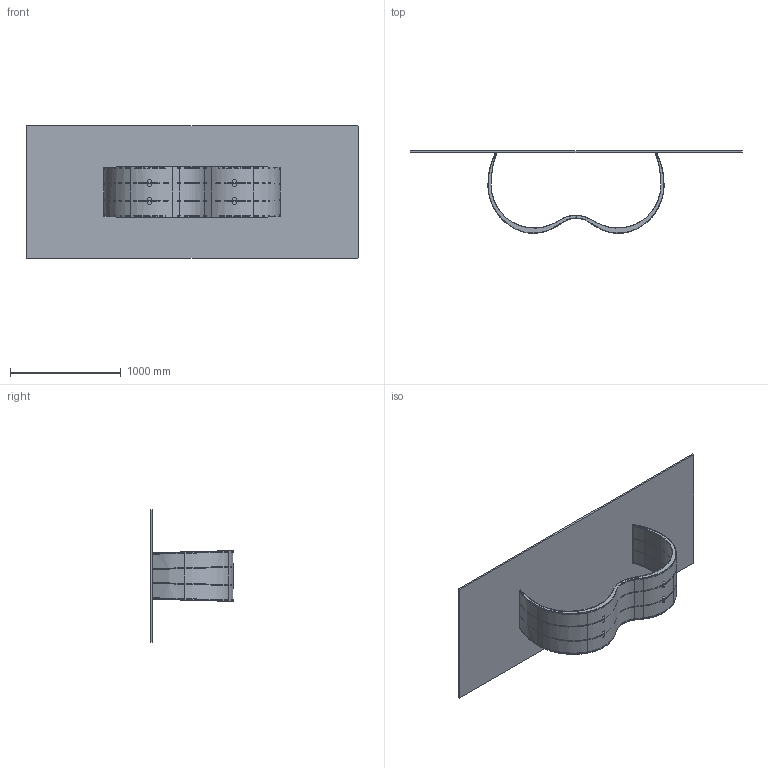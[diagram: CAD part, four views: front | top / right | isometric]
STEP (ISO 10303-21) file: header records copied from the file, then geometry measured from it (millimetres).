
FILE_DESCRIPTION (( 'STEP AP203' ), '1' );
FILE_NAME ('AI24G_Alisei_300x120_Glass Rectangular.STEP', '2024-07-31T12:52:25', ( '' ), ( '' ), 'SwSTEP 2.0', 'SolidWorks 2022', '' );
FILE_SCHEMA (( 'CONFIG_CONTROL_DESIGN' ));
Length unit declared in the file: millimetre
Products named in the file (13): SpecchiaturaSpecchiaturaBASE METALLO CURVATO_MEZZA COSTOLA INTERNA; ALI000001_01-00-LAMIERA CALANDRATA ESTERNA; C2XCRXX-00-Piani Rettangolari Cristallo_24 3000x1200; ALI000001-00-ALISEI BASE METALLO L300 GREZZO; SpecchiaturaSpecchiaturaBASE METALLO CURVATO_MEZZA COSTOLA; GOMMINO PVC; ALI000001_04-00-MEZZA COSTOLA; ALI000001_05-00-APPOGGIO PIANO; ALI000001_02-00-LAMIERA CALANDRATA INTERNA; SpecchiaturaBASE METALLO CURVATO_MEZZA COSTOLA; ALI000001_03-00-MEZZA COSTOLA INTERNA; AI24G_Alisei_300x120_Glass Rectangular; SpecchiaturaBASE METALLO CURVATO_MEZZA COSTOLA INTERNA
Assembly tree (18 placements, depth 3):
  AI24G_Alisei_300x120_Glass Rectangular
    ALI000001-00-ALISEI BASE METALLO L300 GREZZO
      ALI000001_01-00-LAMIERA CALANDRATA ESTERNA
      ALI000001_04-00-MEZZA COSTOLA
      SpecchiaturaBASE METALLO CURVATO_MEZZA COSTOLA  x2
      SpecchiaturaSpecchiaturaBASE METALLO CURVATO_MEZZA COSTOLA
      ALI000001_02-00-LAMIERA CALANDRATA INTERNA
      ALI000001_05-00-APPOGGIO PIANO  x2
      ALI000001_03-00-MEZZA COSTOLA INTERNA
      SpecchiaturaBASE METALLO CURVATO_MEZZA COSTOLA INTERNA  x2
      SpecchiaturaSpecchiaturaBASE METALLO CURVATO_MEZZA COSTOLA INTERNA
    GOMMINO PVC  x4
    C2XCRXX-00-Piani Rettangolari Cristallo_24 3000x1200
Bounding box: 3000 x 746 x 1200 mm (x, y, z)
Volume: 61471790.8 mm3; surface area: 13006603.3 mm2
Topology: 17 solids, 17 shells, 879 faces, 2475 edges, 1630 vertices
Faces by surface type: bspline 397, plane 340, cylinder 126, torus 16
Entity records: 32763 total; most frequent: CARTESIAN_POINT 15728, ORIENTED_EDGE 4204, EDGE_CURVE 2102, DIRECTION 2044, VERTEX_POINT 1389, LINE 1050, VECTOR 1050, EDGE_LOOP 829
